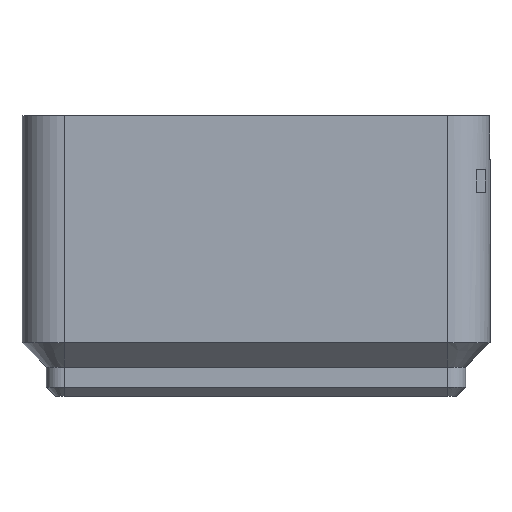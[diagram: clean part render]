
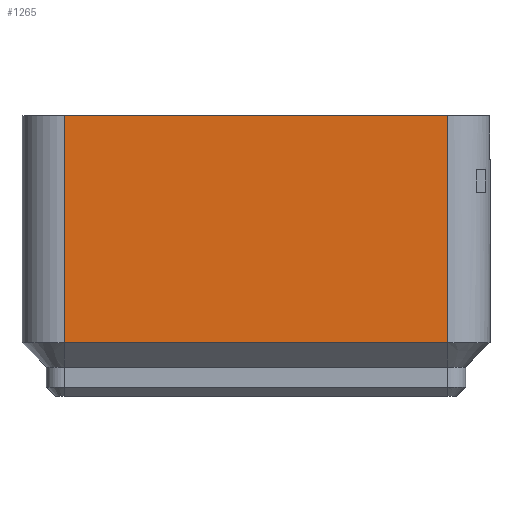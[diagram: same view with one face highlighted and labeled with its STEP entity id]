
A CAD part, left-side view. The second image highlights one B-rep face of the part: STEP entity #1265.
In plain terms, the highlighted planar face has unit normal (-1, 0, 0).
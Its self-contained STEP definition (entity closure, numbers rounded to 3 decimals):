
#417 = PLANE('',#418);
#418 = AXIS2_PLACEMENT_3D('',#419,#420,#421);
#419 = CARTESIAN_POINT('',(-20.75,0.,4.75));
#420 = DIRECTION('',(-0.707,0.,-0.707));
#421 = DIRECTION('',(0.,-1.,-0.));
#851 = VERTEX_POINT('',#852);
#852 = CARTESIAN_POINT('',(-20.75,-17.,4.75));
#870 = EDGE_CURVE('',#851,#871,#873,.T.);
#871 = VERTEX_POINT('',#872);
#872 = CARTESIAN_POINT('',(-20.75,17.,4.75));
#873 = SURFACE_CURVE('',#874,(#878,#885),.PCURVE_S1.);
#874 = LINE('',#875,#876);
#875 = CARTESIAN_POINT('',(-20.75,0.,4.75));
#876 = VECTOR('',#877,1.);
#877 = DIRECTION('',(0.,1.,0.));
#878 = PCURVE('',#417,#879);
#879 = DEFINITIONAL_REPRESENTATION('',(#880),#884);
#880 = LINE('',#881,#882);
#881 = CARTESIAN_POINT('',(0.,0.));
#882 = VECTOR('',#883,1.);
#883 = DIRECTION('',(-1.,0.));
#884 = ( GEOMETRIC_REPRESENTATION_CONTEXT(2) 
PARAMETRIC_REPRESENTATION_CONTEXT() REPRESENTATION_CONTEXT('2D SPACE',''
  ) );
#885 = PCURVE('',#886,#891);
#886 = PLANE('',#887);
#887 = AXIS2_PLACEMENT_3D('',#888,#889,#890);
#888 = CARTESIAN_POINT('',(-20.75,-17.,4.75));
#889 = DIRECTION('',(-1.,0.,0.));
#890 = DIRECTION('',(0.,1.,0.));
#891 = DEFINITIONAL_REPRESENTATION('',(#892),#896);
#892 = LINE('',#893,#894);
#893 = CARTESIAN_POINT('',(17.,0.));
#894 = VECTOR('',#895,1.);
#895 = DIRECTION('',(1.,0.));
#896 = ( GEOMETRIC_REPRESENTATION_CONTEXT(2) 
PARAMETRIC_REPRESENTATION_CONTEXT() REPRESENTATION_CONTEXT('2D SPACE',''
  ) );
#1203 = CYLINDRICAL_SURFACE('',#1204,3.75);
#1204 = AXIS2_PLACEMENT_3D('',#1205,#1206,#1207);
#1205 = CARTESIAN_POINT('',(-17.,-17.,4.75));
#1206 = DIRECTION('',(0.,0.,-1.));
#1207 = DIRECTION('',(-1.,0.,0.));
#1237 = CYLINDRICAL_SURFACE('',#1238,3.75);
#1238 = AXIS2_PLACEMENT_3D('',#1239,#1240,#1241);
#1239 = CARTESIAN_POINT('',(-17.,17.,4.75));
#1240 = DIRECTION('',(0.,0.,-1.));
#1241 = DIRECTION('',(-1.,0.,0.));
#1265 = ADVANCED_FACE('',(#1266),#886,.T.);
#1266 = FACE_BOUND('',#1267,.T.);
#1267 = EDGE_LOOP('',(#1268,#1291,#1319,#1340));
#1268 = ORIENTED_EDGE('',*,*,#1269,.T.);
#1269 = EDGE_CURVE('',#851,#1270,#1272,.T.);
#1270 = VERTEX_POINT('',#1271);
#1271 = CARTESIAN_POINT('',(-20.75,-17.,24.9));
#1272 = SURFACE_CURVE('',#1273,(#1277,#1284),.PCURVE_S1.);
#1273 = LINE('',#1274,#1275);
#1274 = CARTESIAN_POINT('',(-20.75,-17.,4.75));
#1275 = VECTOR('',#1276,1.);
#1276 = DIRECTION('',(0.,0.,1.));
#1277 = PCURVE('',#886,#1278);
#1278 = DEFINITIONAL_REPRESENTATION('',(#1279),#1283);
#1279 = LINE('',#1280,#1281);
#1280 = CARTESIAN_POINT('',(0.,0.));
#1281 = VECTOR('',#1282,1.);
#1282 = DIRECTION('',(0.,-1.));
#1283 = ( GEOMETRIC_REPRESENTATION_CONTEXT(2) 
PARAMETRIC_REPRESENTATION_CONTEXT() REPRESENTATION_CONTEXT('2D SPACE',''
  ) );
#1284 = PCURVE('',#1203,#1285);
#1285 = DEFINITIONAL_REPRESENTATION('',(#1286),#1290);
#1286 = LINE('',#1287,#1288);
#1287 = CARTESIAN_POINT('',(6.283,0.));
#1288 = VECTOR('',#1289,1.);
#1289 = DIRECTION('',(0.,-1.));
#1290 = ( GEOMETRIC_REPRESENTATION_CONTEXT(2) 
PARAMETRIC_REPRESENTATION_CONTEXT() REPRESENTATION_CONTEXT('2D SPACE',''
  ) );
#1291 = ORIENTED_EDGE('',*,*,#1292,.T.);
#1292 = EDGE_CURVE('',#1270,#1293,#1295,.T.);
#1293 = VERTEX_POINT('',#1294);
#1294 = CARTESIAN_POINT('',(-20.75,17.,24.9));
#1295 = SURFACE_CURVE('',#1296,(#1300,#1307),.PCURVE_S1.);
#1296 = LINE('',#1297,#1298);
#1297 = CARTESIAN_POINT('',(-20.75,0.,24.9));
#1298 = VECTOR('',#1299,1.);
#1299 = DIRECTION('',(0.,1.,0.));
#1300 = PCURVE('',#886,#1301);
#1301 = DEFINITIONAL_REPRESENTATION('',(#1302),#1306);
#1302 = LINE('',#1303,#1304);
#1303 = CARTESIAN_POINT('',(17.,-20.15));
#1304 = VECTOR('',#1305,1.);
#1305 = DIRECTION('',(1.,0.));
#1306 = ( GEOMETRIC_REPRESENTATION_CONTEXT(2) 
PARAMETRIC_REPRESENTATION_CONTEXT() REPRESENTATION_CONTEXT('2D SPACE',''
  ) );
#1307 = PCURVE('',#1308,#1313);
#1308 = PLANE('',#1309);
#1309 = AXIS2_PLACEMENT_3D('',#1310,#1311,#1312);
#1310 = CARTESIAN_POINT('',(0.,0.,24.9)
  );
#1311 = DIRECTION('',(0.,0.,1.));
#1312 = DIRECTION('',(1.,0.,-0.));
#1313 = DEFINITIONAL_REPRESENTATION('',(#1314),#1318);
#1314 = LINE('',#1315,#1316);
#1315 = CARTESIAN_POINT('',(-20.75,0.));
#1316 = VECTOR('',#1317,1.);
#1317 = DIRECTION('',(0.,1.));
#1318 = ( GEOMETRIC_REPRESENTATION_CONTEXT(2) 
PARAMETRIC_REPRESENTATION_CONTEXT() REPRESENTATION_CONTEXT('2D SPACE',''
  ) );
#1319 = ORIENTED_EDGE('',*,*,#1320,.F.);
#1320 = EDGE_CURVE('',#871,#1293,#1321,.T.);
#1321 = SURFACE_CURVE('',#1322,(#1326,#1333),.PCURVE_S1.);
#1322 = LINE('',#1323,#1324);
#1323 = CARTESIAN_POINT('',(-20.75,17.,4.75));
#1324 = VECTOR('',#1325,1.);
#1325 = DIRECTION('',(0.,0.,1.));
#1326 = PCURVE('',#886,#1327);
#1327 = DEFINITIONAL_REPRESENTATION('',(#1328),#1332);
#1328 = LINE('',#1329,#1330);
#1329 = CARTESIAN_POINT('',(34.,0.));
#1330 = VECTOR('',#1331,1.);
#1331 = DIRECTION('',(0.,-1.));
#1332 = ( GEOMETRIC_REPRESENTATION_CONTEXT(2) 
PARAMETRIC_REPRESENTATION_CONTEXT() REPRESENTATION_CONTEXT('2D SPACE',''
  ) );
#1333 = PCURVE('',#1237,#1334);
#1334 = DEFINITIONAL_REPRESENTATION('',(#1335),#1339);
#1335 = LINE('',#1336,#1337);
#1336 = CARTESIAN_POINT('',(0.,0.));
#1337 = VECTOR('',#1338,1.);
#1338 = DIRECTION('',(0.,-1.));
#1339 = ( GEOMETRIC_REPRESENTATION_CONTEXT(2) 
PARAMETRIC_REPRESENTATION_CONTEXT() REPRESENTATION_CONTEXT('2D SPACE',''
  ) );
#1340 = ORIENTED_EDGE('',*,*,#870,.F.);
